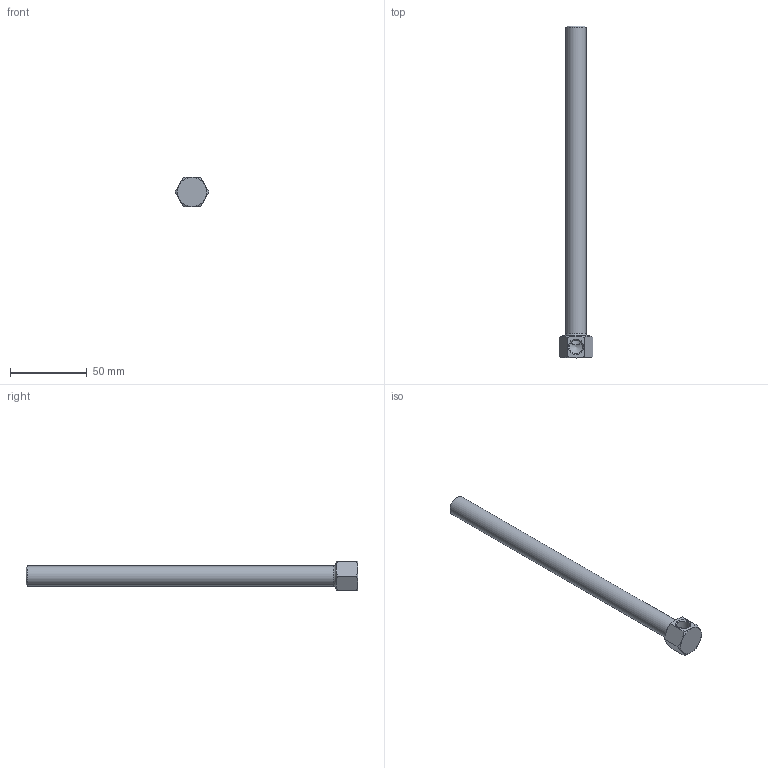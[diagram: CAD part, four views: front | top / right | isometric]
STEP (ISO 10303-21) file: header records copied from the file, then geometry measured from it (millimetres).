
FILE_DESCRIPTION(/* description */ (''),/* implementation_level */ '2;1');
FILE_NAME(/* name */ 'C:/Users/drich/Desktop/1814B-8-1_2 v1.step',/* time_stamp */ '2019-12-29T15:30:40-06:00',/* author */ (''),/* organization */ (''),/* preprocessor_version */ 'ST-DEVELOPER v18',/* originating_system */ 'Autodesk Translation Framework v8.12.0.6',/* authorisation */ '');
FILE_SCHEMA (('AUTOMOTIVE_DESIGN { 1 0 10303 214 3 1 1 }'));
Length unit declared in the file: inch
Products named in the file (1): 1814B-8-1_2
Bounding box: 22 x 215.9 x 19.05 mm (x, y, z)
Volume: 18351 mm3; surface area: 15586.1 mm2
Topology: 1 solids, 1 shells, 22 faces, 57 edges, 37 vertices
Faces by surface type: plane 9, cone 8, cylinder 4, torus 1
Full cylindrical faces by diameter (mm): 8.707 x1, 8.712 x1, 13.032 x1
Entity records: 801 total; most frequent: CARTESIAN_POINT 256, ORIENTED_EDGE 112, DIRECTION 100, EDGE_CURVE 56, AXIS2_PLACEMENT_3D 42, VERTEX_POINT 37, EDGE_LOOP 25, FACE_OUTER_BOUND 22
